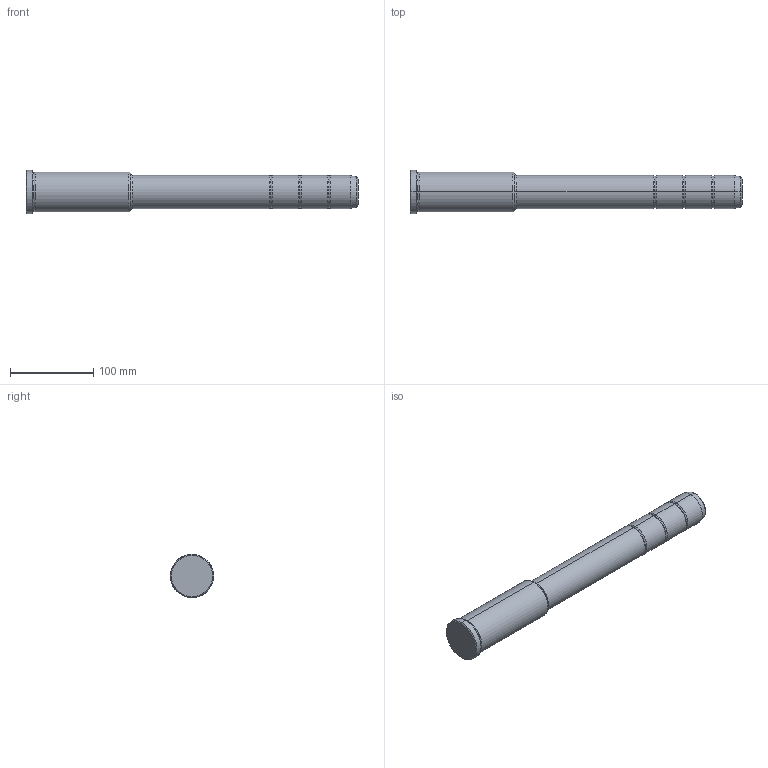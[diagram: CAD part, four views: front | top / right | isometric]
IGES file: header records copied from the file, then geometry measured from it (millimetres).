
Start section: START RECORD GO HERE.
Global section: file name: 351-40X126X400.igs; native system: DASSAULT SYSTEMES CATIA V5 R20 - www.3ds.com; preprocessor: CATIA Version 5 Release 20 ; author: Utente; organization: NB04-ASUS; date: 20211103.201733; units: millimetre
Bounding box: 400 x 52 x 52 mm (x, y, z)
Surface area: 57315.8 mm2 (no closed solid volume)
Topology: 0 solids, 0 shells, 42 faces, 236 edges, 236 vertices
Faces by surface type: revolution 38, plane 4
